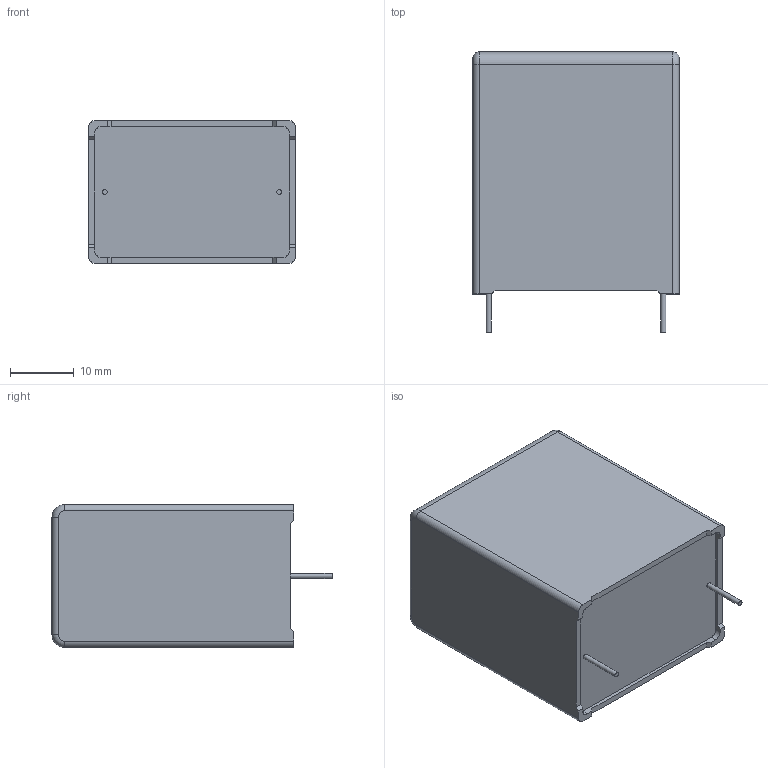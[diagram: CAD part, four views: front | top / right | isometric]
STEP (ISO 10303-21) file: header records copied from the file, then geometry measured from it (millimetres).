
FILE_DESCRIPTION (( 'STEP AP203' ), '1' );
FILE_NAME ('MKP1847H56025+K2.step', '2018-01-17T10:51:13', ( 'work' ), ( 'Hewlett-Packard Company' ), 'SwSTEP 2.0', 'SolidWorks 2017', '' );
FILE_SCHEMA (( 'CONFIG_CONTROL_DESIGN' ));
Length unit declared in the file: millimetre
Products named in the file (1): MKP1847H56025+K2
Bounding box: 32.5 x 44.1 x 22.5 mm (x, y, z)
Volume: 27100.1 mm3; surface area: 5561.3 mm2
Topology: 1 solids, 1 shells, 114 faces, 303 edges, 200 vertices
Faces by surface type: plane 80, bspline 16, cylinder 14, torus 4
Full cylindrical faces by diameter (mm): 0.8 x2
Entity records: 4252 total; most frequent: CARTESIAN_POINT 1436, ORIENTED_EDGE 598, DIRECTION 497, EDGE_CURVE 299, VECTOR 235, LINE 235, VERTEX_POINT 198, AXIS2_PLACEMENT_3D 131
